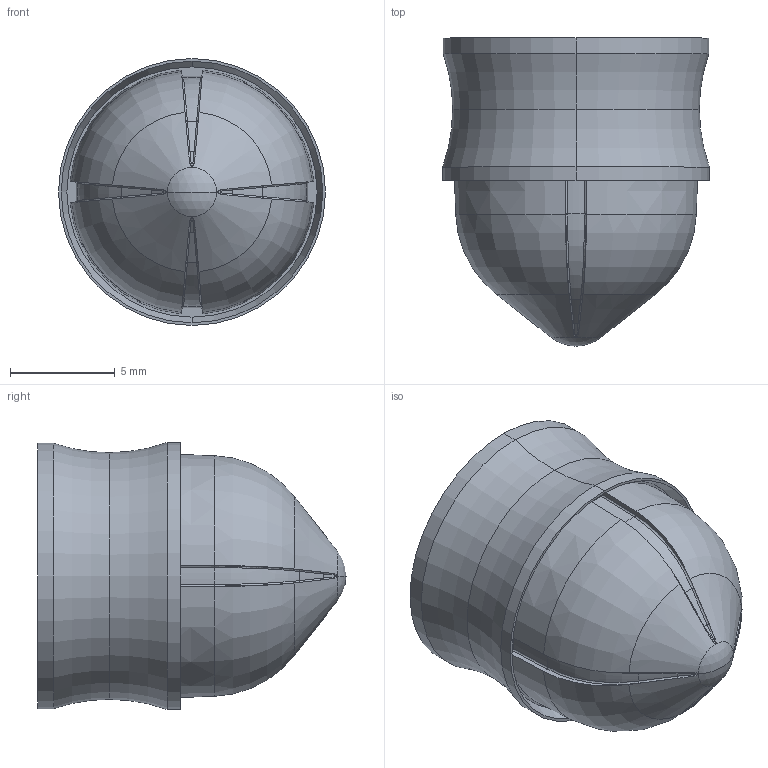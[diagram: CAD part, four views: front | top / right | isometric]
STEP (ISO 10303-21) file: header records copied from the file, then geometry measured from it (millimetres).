
FILE_DESCRIPTION (( 'STEP AP214' ), '1' );
FILE_NAME ('NORDSONEFD-7012027 PISTON O 5CC WH WIPER.STEP', '2019-04-22T19:57:50', ( '' ), ( '' ), 'SwSTEP 2.0', 'SolidWorks 2019', '' );
FILE_SCHEMA (( 'AUTOMOTIVE_DESIGN' ));
Length unit declared in the file: inch
Products named in the file (1): NORDSONEFD-7012027 PISTON O 5CC WH WIPER
Bounding box: 12.76 x 14.73 x 12.76 mm (x, y, z)
Volume: 331.4 mm3; surface area: 1205 mm2
Topology: 1 solids, 1 shells, 243 faces, 637 edges, 406 vertices
Faces by surface type: bspline 83, plane 71, torus 34, cone 33, cylinder 18, sphere 4
Entity records: 10525 total; most frequent: CARTESIAN_POINT 5161, ORIENTED_EDGE 1274, DIRECTION 894, EDGE_CURVE 637, VERTEX_POINT 406, AXIS2_PLACEMENT_3D 369, B_SPLINE_CURVE_WITH_KNOTS 273, EDGE_LOOP 253
